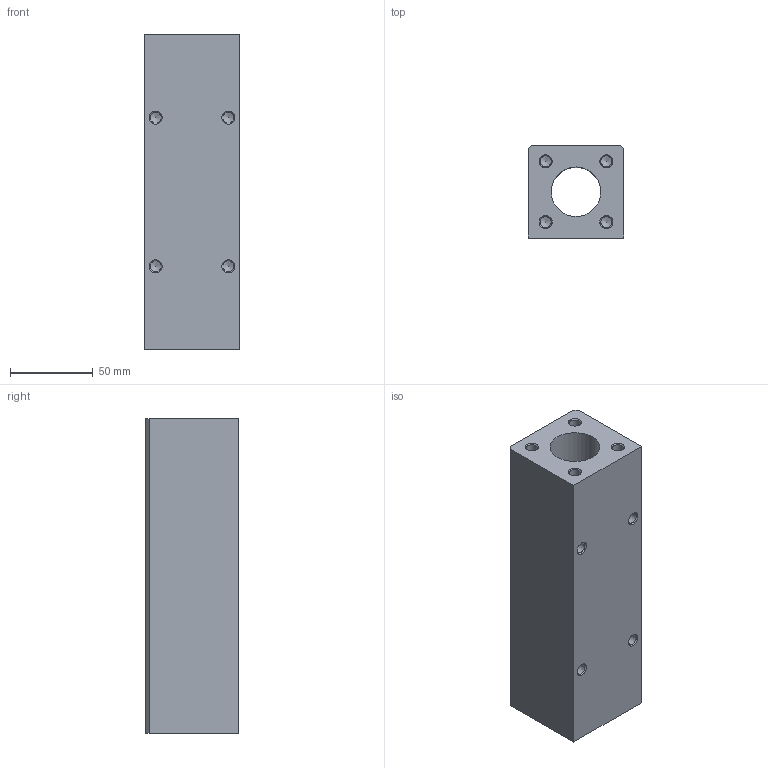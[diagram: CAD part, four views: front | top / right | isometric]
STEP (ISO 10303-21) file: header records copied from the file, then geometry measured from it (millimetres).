
FILE_DESCRIPTION( ( 'STEP AP214' ), '1' );
FILE_NAME( 'U:/Etudes/Top Solid/BIBLIO 3D AVM/STEP/G_GUIDAGE/Accessoires/Paliers/5136852.step', '2007-06-18T12:00:53', ( ' ' ), ( ' ' ), 'XStep 1.0', ' ', ' ' );
FILE_SCHEMA( ( 'automotive_design' ) );
Length unit declared in the file: metre
Products named in the file (1): 1
Bounding box: 58 x 56 x 190 mm (x, y, z)
Volume: 476464.4 mm3; surface area: 69255.4 mm2
Topology: 1 solids, 1 shells, 65 faces, 141 edges, 94 vertices
Faces by surface type: cylinder 25, plane 24, cone 16
Full cylindrical faces by diameter (mm): 6.647 x16, 8.2 x8, 30 x1
Entity records: 1944 total; most frequent: DIRECTION 266, CARTESIAN_POINT 220, ORIENTED_EDGE 152, AXIS2_PLACEMENT_3D 124, EDGE_LOOP 124, FACE_OUTER_BOUND 90, VERTEX_POINT 78, EDGE_CURVE 76
